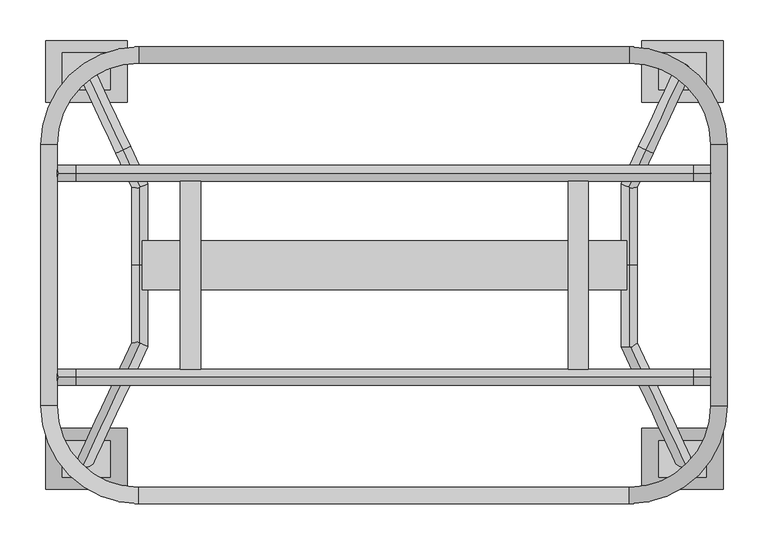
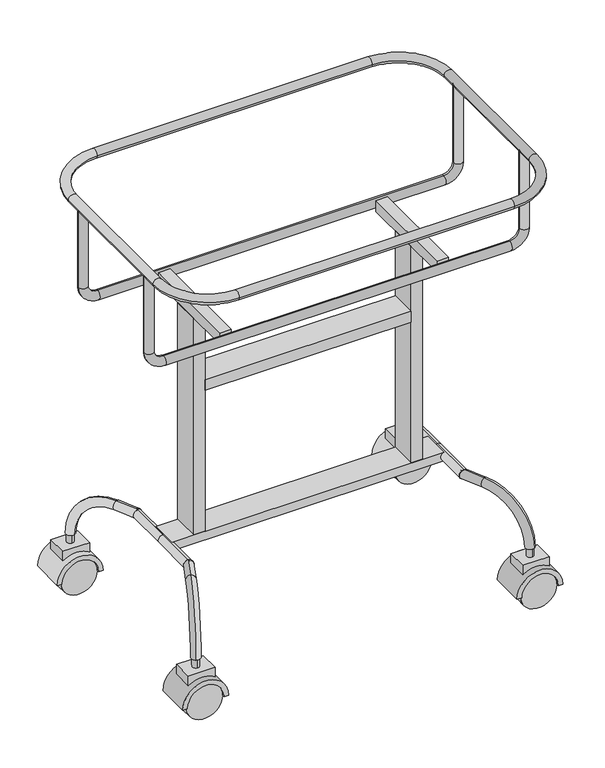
"""IFC4 building model written with IfcOpenShell, lengths in millimetres: furniture geometry, BIMHealth-Cot-LOD2A-v1 : BIMHealth-Cot-LOD2A-v1."""

from ifc_helpers import new_model, si_unit, point, frame, frame_2d, origin, place, context, project, spatial, polyline, circle_curve, ellipse_curve, trimmed, segment, composite_curve, outline, extrude, source, transform, mapped, element, save
from ifc_brep_helpers import plane_surface, cylinder_surface, revolved_surface, advanced_brep


def furniture_f9a86dfd(model_context):
    return source(origin(), model_context, "Body", "SolidModel", [
        extrude(outline(composite_curve([segment(trimmed(circle_curve(frame_2d((-365.3255131, -237.5343393)), 7.5), [point((-365.3255131, -245.0343393))], [point((-365.3255131, -230.0343393))], False, "CARTESIAN"), True, "CONTINUOUS"), segment(trimmed(circle_curve(frame_2d((-365.3255131, -237.5343393)), 7.5), [point((-365.3255131, -230.0343393))], [point((-365.3255131, -245.0343393))], False, "CARTESIAN"), True, "CONTINUOUS")], self_intersect=False)), frame((0.0, 0.0, 102.2775188), z_axis=(0.0, 0.0, 1.0), x_axis=(1.0, 0.0, 0.0)), (0.0, 0.0, 1.0), 20.0),
        extrude(outline(composite_curve([segment(polyline([(102.2775188, -336.0691126), (102.2775188, -394.5819136), (80.5470471, -394.5819136)]), True, "CONTINUOUS"), segment(trimmed(circle_curve(frame_2d((40.0, -365.3255131)), 50.0), [point((80.5470471, -394.5819136))], [point((80.5470471, -336.0691126))], True, "CARTESIAN"), True, "CONTINUOUS"), segment(polyline([(80.5470471, -336.0691126), (102.2775188, -336.0691126)]), True, "CONTINUOUS")], self_intersect=False)), frame((0.0, -260.160003, 0.0), z_axis=(0.0, 1.0, 0.0), x_axis=(0.0, 0.0, 1.0)), (0.0, 0.0, 1.0), 45.2513275),
        extrude(outline(composite_curve([segment(polyline([(40.0, -325.3255131), (40.0, -315.3255131)]), True, "CONTINUOUS"), segment(trimmed(circle_curve(frame_2d((40.0, -365.3255131)), 50.0), [point((40.0, -315.3255131))], [point((40.0, -415.3255131))], False, "CARTESIAN"), True, "CONTINUOUS"), segment(polyline([(40.0, -415.3255131), (40.0, -405.3255131)]), True, "CONTINUOUS"), segment(trimmed(circle_curve(frame_2d((40.0, -365.3255131)), 40.0), [point((40.0, -405.3255131))], [point((40.0, -325.3255131))], True, "CARTESIAN"), True, "CONTINUOUS")], self_intersect=False)), frame((0.0, -274.7407009, 0.0), z_axis=(0.0, 1.0, 0.0), x_axis=(0.0, 0.0, 1.0)), (0.0, 0.0, 1.0), 75.0),
        extrude(outline(composite_curve([segment(trimmed(circle_curve(frame_2d((40.0, -365.3255131)), 40.0), [point((40.0, -405.3255131))], [point((40.0, -325.3255131))], False, "CARTESIAN"), True, "CONTINUOUS"), segment(trimmed(circle_curve(frame_2d((40.0, -365.3255131)), 40.0), [point((40.0, -325.3255131))], [point((40.0, -405.3255131))], False, "CARTESIAN"), True, "CONTINUOUS")], self_intersect=False)), frame((0.0, -224.7407009, 0.0), z_axis=(0.0, 1.0, 0.0), x_axis=(0.0, 0.0, 1.0)), (0.0, 0.0, 1.0), 20.0),
        extrude(outline(composite_curve([segment(trimmed(circle_curve(frame_2d((40.0, -365.3255131)), 40.0), [point((40.0, -405.3255131))], [point((40.0, -325.3255131))], False, "CARTESIAN"), True, "CONTINUOUS"), segment(trimmed(circle_curve(frame_2d((40.0, -365.3255131)), 40.0), [point((40.0, -325.3255131))], [point((40.0, -405.3255131))], False, "CARTESIAN"), True, "CONTINUOUS")], self_intersect=False)), frame((0.0, -269.7407009, 0.0), z_axis=(0.0, 1.0, 0.0), x_axis=(0.0, 0.0, 1.0)), (0.0, 0.0, 1.0), 20.0),
        extrude(outline(composite_curve([segment(trimmed(circle_curve(frame_2d((-365.3255131, 237.5343393)), 7.5), [point((-365.3255131, 245.0343393))], [point((-365.3255131, 230.0343393))], False, "CARTESIAN"), True, "CONTINUOUS"), segment(trimmed(circle_curve(frame_2d((-365.3255131, 237.5343393)), 7.5), [point((-365.3255131, 230.0343393))], [point((-365.3255131, 245.0343393))], False, "CARTESIAN"), True, "CONTINUOUS")], self_intersect=False)), frame((0.0, 0.0, 102.2775188), z_axis=(0.0, 0.0, 1.0), x_axis=(1.0, 0.0, 0.0)), (0.0, 0.0, 1.0), 20.0),
        extrude(outline(composite_curve([segment(polyline([(102.2775188, -336.0691126), (102.2775188, -394.5819136), (80.5470471, -394.5819136)]), True, "CONTINUOUS"), segment(trimmed(circle_curve(frame_2d((40.0, -365.3255131)), 50.0), [point((80.5470471, -394.5819136))], [point((80.5470471, -336.0691126))], True, "CARTESIAN"), True, "CONTINUOUS"), segment(polyline([(80.5470471, -336.0691126), (102.2775188, -336.0691126)]), True, "CONTINUOUS")], self_intersect=False)), frame((0.0, 214.9086756, 0.0), z_axis=(0.0, 1.0, 0.0), x_axis=(0.0, 0.0, 1.0)), (0.0, 0.0, 1.0), 45.2513275),
        extrude(outline(composite_curve([segment(polyline([(40.0, -325.3255131), (40.0, -315.3255131)]), True, "CONTINUOUS"), segment(trimmed(circle_curve(frame_2d((40.0, -365.3255131)), 50.0), [point((40.0, -315.3255131))], [point((40.0, -415.3255131))], False, "CARTESIAN"), True, "CONTINUOUS"), segment(polyline([(40.0, -415.3255131), (40.0, -405.3255131)]), True, "CONTINUOUS"), segment(trimmed(circle_curve(frame_2d((40.0, -365.3255131)), 40.0), [point((40.0, -405.3255131))], [point((40.0, -325.3255131))], True, "CARTESIAN"), True, "CONTINUOUS")], self_intersect=False)), frame((0.0, 199.7407009, 0.0), z_axis=(0.0, 1.0, 0.0), x_axis=(0.0, 0.0, 1.0)), (0.0, 0.0, 1.0), 75.0),
        extrude(outline(composite_curve([segment(trimmed(circle_curve(frame_2d((40.0, -365.3255131)), 40.0), [point((40.0, -405.3255131))], [point((40.0, -325.3255131))], False, "CARTESIAN"), True, "CONTINUOUS"), segment(trimmed(circle_curve(frame_2d((40.0, -365.3255131)), 40.0), [point((40.0, -325.3255131))], [point((40.0, -405.3255131))], False, "CARTESIAN"), True, "CONTINUOUS")], self_intersect=False)), frame((0.0, 204.7407009, 0.0), z_axis=(0.0, 1.0, 0.0), x_axis=(0.0, 0.0, 1.0)), (0.0, 0.0, 1.0), 20.0),
        extrude(outline(composite_curve([segment(trimmed(circle_curve(frame_2d((40.0, -365.3255131)), 40.0), [point((40.0, -405.3255131))], [point((40.0, -325.3255131))], False, "CARTESIAN"), True, "CONTINUOUS"), segment(trimmed(circle_curve(frame_2d((40.0, -365.3255131)), 40.0), [point((40.0, -325.3255131))], [point((40.0, -405.3255131))], False, "CARTESIAN"), True, "CONTINUOUS")], self_intersect=False)), frame((0.0, 249.7407009, 0.0), z_axis=(0.0, 1.0, 0.0), x_axis=(0.0, 0.0, 1.0)), (0.0, 0.0, 1.0), 20.0),
        extrude(outline(composite_curve([segment(trimmed(circle_curve(frame_2d((365.3255131, -237.5343393)), 7.5), [point((365.3255131, -245.0343393))], [point((365.3255131, -230.0343393))], False, "CARTESIAN"), True, "CONTINUOUS"), segment(trimmed(circle_curve(frame_2d((365.3255131, -237.5343393)), 7.5), [point((365.3255131, -230.0343393))], [point((365.3255131, -245.0343393))], False, "CARTESIAN"), True, "CONTINUOUS")], self_intersect=False)), frame((0.0, 0.0, 102.2775188), z_axis=(0.0, 0.0, 1.0), x_axis=(1.0, 0.0, 0.0)), (0.0, 0.0, 1.0), 20.0),
        extrude(outline(composite_curve([segment(polyline([(102.2775188, 336.0691126), (80.5470471, 336.0691126)]), True, "CONTINUOUS"), segment(trimmed(circle_curve(frame_2d((40.0, 365.3255131)), 50.0), [point((80.5470471, 336.0691126))], [point((80.5470471, 394.5819136))], True, "CARTESIAN"), True, "CONTINUOUS"), segment(polyline([(80.5470471, 394.5819136), (102.2775188, 394.5819136), (102.2775188, 336.0691126)]), True, "CONTINUOUS")], self_intersect=False)), frame((0.0, -260.160003, 0.0), z_axis=(0.0, 1.0, 0.0), x_axis=(0.0, 0.0, 1.0)), (0.0, 0.0, 1.0), 45.2513275),
        extrude(outline(composite_curve([segment(trimmed(circle_curve(frame_2d((40.0, 365.3255131)), 40.0), [point((40.0, 325.3255131))], [point((40.0, 405.3255131))], True, "CARTESIAN"), True, "CONTINUOUS"), segment(polyline([(40.0, 405.3255131), (40.0, 415.3255131)]), True, "CONTINUOUS"), segment(trimmed(circle_curve(frame_2d((40.0, 365.3255131)), 50.0), [point((40.0, 415.3255131))], [point((40.0, 315.3255131))], False, "CARTESIAN"), True, "CONTINUOUS"), segment(polyline([(40.0, 315.3255131), (40.0, 325.3255131)]), True, "CONTINUOUS")], self_intersect=False)), frame((0.0, -274.7407009, 0.0), z_axis=(0.0, 1.0, 0.0), x_axis=(0.0, 0.0, 1.0)), (0.0, 0.0, 1.0), 75.0),
        extrude(outline(composite_curve([segment(trimmed(circle_curve(frame_2d((40.0, 365.3255131)), 40.0), [point((40.0, 405.3255131))], [point((40.0, 325.3255131))], False, "CARTESIAN"), True, "CONTINUOUS"), segment(trimmed(circle_curve(frame_2d((40.0, 365.3255131)), 40.0), [point((40.0, 325.3255131))], [point((40.0, 405.3255131))], False, "CARTESIAN"), True, "CONTINUOUS")], self_intersect=False)), frame((0.0, -224.7407009, 0.0), z_axis=(0.0, 1.0, 0.0), x_axis=(0.0, 0.0, 1.0)), (0.0, 0.0, 1.0), 20.0),
        extrude(outline(composite_curve([segment(trimmed(circle_curve(frame_2d((40.0, 365.3255131)), 40.0), [point((40.0, 405.3255131))], [point((40.0, 325.3255131))], False, "CARTESIAN"), True, "CONTINUOUS"), segment(trimmed(circle_curve(frame_2d((40.0, 365.3255131)), 40.0), [point((40.0, 325.3255131))], [point((40.0, 405.3255131))], False, "CARTESIAN"), True, "CONTINUOUS")], self_intersect=False)), frame((0.0, -269.7407009, 0.0), z_axis=(0.0, 1.0, 0.0), x_axis=(0.0, 0.0, 1.0)), (0.0, 0.0, 1.0), 20.0),
        extrude(outline(composite_curve([segment(trimmed(circle_curve(frame_2d((365.3255131, 237.5343393)), 7.5), [point((365.3255131, 245.0343393))], [point((365.3255131, 230.0343393))], False, "CARTESIAN"), True, "CONTINUOUS"), segment(trimmed(circle_curve(frame_2d((365.3255131, 237.5343393)), 7.5), [point((365.3255131, 230.0343393))], [point((365.3255131, 245.0343393))], False, "CARTESIAN"), True, "CONTINUOUS")], self_intersect=False)), frame((0.0, 0.0, 102.2775188), z_axis=(0.0, 0.0, 1.0), x_axis=(1.0, 0.0, 0.0)), (0.0, 0.0, 1.0), 20.0),
        extrude(outline(composite_curve([segment(polyline([(102.2775188, 336.0691126), (80.5470471, 336.0691126)]), True, "CONTINUOUS"), segment(trimmed(circle_curve(frame_2d((40.0, 365.3255131)), 50.0), [point((80.5470471, 336.0691126))], [point((80.5470471, 394.5819136))], True, "CARTESIAN"), True, "CONTINUOUS"), segment(polyline([(80.5470471, 394.5819136), (102.2775188, 394.5819136), (102.2775188, 336.0691126)]), True, "CONTINUOUS")], self_intersect=False)), frame((0.0, 214.9086756, 0.0), z_axis=(0.0, 1.0, 0.0), x_axis=(0.0, 0.0, 1.0)), (0.0, 0.0, 1.0), 45.2513275),
        extrude(outline(composite_curve([segment(trimmed(circle_curve(frame_2d((40.0, 365.3255131)), 40.0), [point((40.0, 325.3255131))], [point((40.0, 405.3255131))], True, "CARTESIAN"), True, "CONTINUOUS"), segment(polyline([(40.0, 405.3255131), (40.0, 415.3255131)]), True, "CONTINUOUS"), segment(trimmed(circle_curve(frame_2d((40.0, 365.3255131)), 50.0), [point((40.0, 415.3255131))], [point((40.0, 315.3255131))], False, "CARTESIAN"), True, "CONTINUOUS"), segment(polyline([(40.0, 315.3255131), (40.0, 325.3255131)]), True, "CONTINUOUS")], self_intersect=False)), frame((0.0, 199.7407009, 0.0), z_axis=(0.0, 1.0, 0.0), x_axis=(0.0, 0.0, 1.0)), (0.0, 0.0, 1.0), 75.0),
        extrude(outline(composite_curve([segment(trimmed(circle_curve(frame_2d((40.0, 365.3255131)), 40.0), [point((40.0, 405.3255131))], [point((40.0, 325.3255131))], False, "CARTESIAN"), True, "CONTINUOUS"), segment(trimmed(circle_curve(frame_2d((40.0, 365.3255131)), 40.0), [point((40.0, 325.3255131))], [point((40.0, 405.3255131))], False, "CARTESIAN"), True, "CONTINUOUS")], self_intersect=False)), frame((0.0, 204.7407009, 0.0), z_axis=(0.0, 1.0, 0.0), x_axis=(0.0, 0.0, 1.0)), (0.0, 0.0, 1.0), 20.0),
        extrude(outline(composite_curve([segment(trimmed(circle_curve(frame_2d((40.0, 365.3255131)), 40.0), [point((40.0, 405.3255131))], [point((40.0, 325.3255131))], False, "CARTESIAN"), True, "CONTINUOUS"), segment(trimmed(circle_curve(frame_2d((40.0, 365.3255131)), 40.0), [point((40.0, 325.3255131))], [point((40.0, 405.3255131))], False, "CARTESIAN"), True, "CONTINUOUS")], self_intersect=False)), frame((0.0, 249.7407009, 0.0), z_axis=(0.0, 1.0, 0.0), x_axis=(0.0, 0.0, 1.0)), (0.0, 0.0, 1.0), 20.0),
        advanced_brep(
        [(299.0630779, 95.7738174, 238.3435359), (299.0630779, 95.7738174, 218.3435359), (320.193991, 141.0892067, 238.3435359), (320.193991, 141.0892067, 218.3435359), (369.2456094, 246.2807419, 122.2775188), (360.7932441, 228.1545862, 122.2775188)],
        [
            (0, 1, circle_curve(frame((299.0630779, 95.7738174, 228.3435359), z_axis=(-0.4226182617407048, -0.9063077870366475, 0.0), x_axis=(0.0, 0.0, -1.0)), 10.0)),
            (1, 0, circle_curve(frame((299.0630779, 95.7738174, 228.3435359), z_axis=(-0.4226182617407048, -0.9063077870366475, 0.0), x_axis=(0.0, 0.0, -1.0)), 10.0)),
            (0, 2),
            (2, 3, circle_curve(frame((320.193991, 141.0892067, 228.3435359), z_axis=(-0.4226182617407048, -0.9063077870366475, 0.0), x_axis=(0.0, 0.0, -1.0)), 10.0)),
            (3, 1),
            (3, 2, circle_curve(frame((320.193991, 141.0892067, 228.3435359), z_axis=(-0.4226182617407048, -0.9063077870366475, 0.0), x_axis=(0.0, 0.0, -1.0)), 10.0)),
            (4, 5, circle_curve(frame((365.0194268, 237.217664, 122.2775188), z_axis=(0.0, 0.0, -1.0), x_axis=(-0.4226182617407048, -0.9063077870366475, 0.0)), 10.0)),
            (5, 4, circle_curve(frame((365.0194268, 237.217664, 122.2775188), z_axis=(0.0, 0.0, -1.0), x_axis=(-0.4226182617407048, -0.9063077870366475, 0.0)), 10.0)),
            (5, 3, circle_curve(frame((320.193991, 141.0892067, 122.2775188), z_axis=(0.9063077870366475, -0.4226182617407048, 0.0), x_axis=(0.0, 0.0, 1.0)), 96.0660172)),
            (2, 4, circle_curve(frame((320.193991, 141.0892067, 122.2775188), z_axis=(-0.9063077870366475, 0.4226182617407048, 0.0), x_axis=(0.0, 0.0, 1.0)), 116.0660172)),
        ],
        [
            plane_surface(frame((299.0630779, 95.7738174, 228.3435359), z_axis=(-0.4226182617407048, -0.9063077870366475, 0.0), x_axis=(-0.9063077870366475, 0.4226182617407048, 0.0))),
            cylinder_surface(frame((299.0630779, 95.7738174, 228.3435359), z_axis=(-0.4226182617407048, -0.9063077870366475, 0.0), x_axis=(0.0, 0.0, -1.0)), 10.0),
            plane_surface(frame((365.0194268, 237.217664, 122.2775188), z_axis=(0.0, 0.0, -1.0), x_axis=(-0.9063077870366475, 0.4226182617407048, 0.0))),
            revolved_surface(trimmed(ellipse_curve(frame((320.193991, 141.0892067, 228.3435359), z_axis=(-0.4226182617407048, -0.9063077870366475, 0.0), x_axis=(0.0, 0.0, -1.0)), 10.0, 10.0), [point((320.193991, 141.0892067, 238.3435359))], [point((320.193991, 141.0892067, 218.3435359))], True, "CARTESIAN"), (320.193991, 141.0892067, 122.2775188), (-0.9063077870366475, 0.4226182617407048, 0.0)),
            revolved_surface(trimmed(ellipse_curve(frame((320.193991, 141.0892067, 228.3435359), z_axis=(-0.4226182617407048, -0.9063077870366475, 0.0), x_axis=(0.0, 0.0, -1.0)), 10.0, 10.0), [point((320.193991, 141.0892067, 218.3435359))], [point((320.193991, 141.0892067, 238.3435359))], True, "CARTESIAN"), (320.193991, 141.0892067, 122.2775188), (-0.9063077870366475, 0.4226182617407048, 0.0)),
        ],
        [
            (0, [[1, 2]]),
            (1, [[-1, 3, 4, 5]]),
            (1, [[-2, -5, 6, -3]]),
            (2, [[7, 8]]),
            (3, [[9, -4, 10, -8]]),
            (4, [[-10, -6, -9, -7]]),
        ],
    ),
        advanced_brep(
        [(-299.0630779, 95.7738174, 238.3435359), (-299.0630779, 95.7738174, 218.3435359), (-320.193991, 141.0892067, 218.3435359), (-320.193991, 141.0892067, 238.3435359), (-369.2456094, 246.2807419, 122.2775188), (-360.7932441, 228.1545862, 122.2775188)],
        [
            (0, 1, circle_curve(frame((-299.0630779, 95.7738174, 228.3435359), z_axis=(0.422618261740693, -0.9063077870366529, 0.0), x_axis=(0.0, 0.0, -1.0)), 10.0)),
            (1, 0, circle_curve(frame((-299.0630779, 95.7738174, 228.3435359), z_axis=(0.422618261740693, -0.9063077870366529, 0.0), x_axis=(0.0, 0.0, -1.0)), 10.0)),
            (1, 2),
            (2, 3, circle_curve(frame((-320.193991, 141.0892067, 228.3435359), z_axis=(0.422618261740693, -0.9063077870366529, 0.0), x_axis=(0.0, 0.0, -1.0)), 10.0)),
            (3, 0),
            (3, 2, circle_curve(frame((-320.193991, 141.0892067, 228.3435359), z_axis=(0.422618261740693, -0.9063077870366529, 0.0), x_axis=(0.0, 0.0, -1.0)), 10.0)),
            (4, 5, circle_curve(frame((-365.0194268, 237.217664, 122.2775188), z_axis=(0.0, 0.0, -1.0), x_axis=(0.422618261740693, -0.9063077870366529, 0.0)), 10.0)),
            (5, 4, circle_curve(frame((-365.0194268, 237.217664, 122.2775188), z_axis=(0.0, 0.0, -1.0), x_axis=(0.422618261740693, -0.9063077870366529, 0.0)), 10.0)),
            (4, 3, circle_curve(frame((-320.193991, 141.0892067, 122.2775188), z_axis=(0.9063077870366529, 0.422618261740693, 0.0), x_axis=(0.0, 0.0, 1.0)), 116.0660172)),
            (2, 5, circle_curve(frame((-320.193991, 141.0892067, 122.2775188), z_axis=(-0.9063077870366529, -0.422618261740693, 0.0), x_axis=(0.0, 0.0, 1.0)), 96.0660172)),
        ],
        [
            plane_surface(frame((-299.0630779, 95.7738174, 228.3435359), z_axis=(0.422618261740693, -0.9063077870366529, 0.0), x_axis=(0.9063077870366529, 0.422618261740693, 0.0))),
            cylinder_surface(frame((-299.0630779, 95.7738174, 228.3435359), z_axis=(0.422618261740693, -0.9063077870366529, 0.0), x_axis=(0.0, 0.0, -1.0)), 10.0),
            plane_surface(frame((-365.0194268, 237.217664, 122.2775188), z_axis=(0.0, 0.0, -1.0), x_axis=(0.906307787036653, 0.422618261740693, 0.0))),
            revolved_surface(trimmed(ellipse_curve(frame((-320.193991, 141.0892067, 228.3435359), z_axis=(0.422618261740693, -0.9063077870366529, 0.0), x_axis=(0.0, 0.0, -1.0)), 10.0, 10.0), [point((-320.193991, 141.0892067, 218.3435359))], [point((-320.193991, 141.0892067, 238.3435359))], True, "CARTESIAN"), (-320.193991, 141.0892067, 122.2775188), (-0.9063077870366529, -0.422618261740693, 0.0)),
            revolved_surface(trimmed(ellipse_curve(frame((-320.193991, 141.0892067, 228.3435359), z_axis=(0.422618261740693, -0.9063077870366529, 0.0), x_axis=(0.0, 0.0, -1.0)), 10.0, 10.0), [point((-320.193991, 141.0892067, 238.3435359))], [point((-320.193991, 141.0892067, 218.3435359))], True, "CARTESIAN"), (-320.193991, 141.0892067, 122.2775188), (-0.9063077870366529, -0.422618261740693, 0.0)),
        ],
        [
            (0, [[1, 2]]),
            (1, [[-2, 3, 4, 5]]),
            (1, [[-1, -5, 6, -3]]),
            (2, [[7, 8]]),
            (3, [[9, -4, 10, -7]]),
            (4, [[-10, -6, -9, -8]]),
        ],
    ),
        advanced_brep(
        [(300.0, -100.0, 218.3435359), (300.0, -100.0, 238.3435359), (300.0, 0.0, 238.3435359), (300.0, 0.0, 218.3435359), (300.0, 100.0, 218.3435359), (300.0, 100.0, 238.3435359)],
        [
            (0, 1, circle_curve(frame((300.0, -100.0, 228.3435359), z_axis=(0.0, -1.0, 0.0), x_axis=(0.0, 0.0, 1.0)), 10.0)),
            (1, 0, circle_curve(frame((300.0, -100.0, 228.3435359), z_axis=(0.0, -1.0, 0.0), x_axis=(0.0, 0.0, 1.0)), 10.0)),
            (1, 2),
            (2, 3, circle_curve(frame((300.0, 0.0, 228.3435359), z_axis=(0.0, -1.0, 0.0), x_axis=(0.0, 0.0, 1.0)), 10.0)),
            (3, 0),
            (3, 2, circle_curve(frame((300.0, 0.0, 228.3435359), z_axis=(0.0, -1.0, 0.0), x_axis=(0.0, 0.0, 1.0)), 10.0)),
            (4, 5, circle_curve(frame((300.0, 100.0, 228.3435359), z_axis=(0.0, 1.0, 0.0), x_axis=(0.0, 0.0, 1.0)), 10.0)),
            (5, 4, circle_curve(frame((300.0, 100.0, 228.3435359), z_axis=(0.0, 1.0, 0.0), x_axis=(0.0, 0.0, 1.0)), 10.0)),
            (2, 5),
            (4, 3),
        ],
        [
            plane_surface(frame((300.0, -100.0, 228.3435359), z_axis=(0.0, -1.0, 0.0), x_axis=(-1.0, 0.0, 0.0))),
            cylinder_surface(frame((300.0, -100.0, 228.3435359), z_axis=(0.0, -1.0, 0.0), x_axis=(0.0, 0.0, 1.0)), 10.0),
            plane_surface(frame((300.0, 100.0, 228.3435359), z_axis=(0.0, 1.0, 0.0), x_axis=(-1.0, 0.0, 0.0))),
            cylinder_surface(frame((300.0, 0.0, 228.3435359), z_axis=(0.0, -1.0, 0.0), x_axis=(0.0, 0.0, 1.0)), 10.0),
        ],
        [
            (0, [[1, 2]]),
            (1, [[-2, 3, 4, 5]]),
            (1, [[-1, -5, 6, -3]]),
            (2, [[7, 8]]),
            (3, [[-4, 9, -7, 10]]),
            (3, [[-6, -10, -8, -9]]),
        ],
    ),
        advanced_brep(
        [(299.0630779, -95.7738174, 238.3435359), (299.0630779, -95.7738174, 218.3435359), (320.193991, -141.0892067, 218.3435359), (320.193991, -141.0892067, 238.3435359), (369.2456094, -246.2807419, 122.2775188), (360.7932441, -228.1545862, 122.2775188)],
        [
            (0, 1, circle_curve(frame((299.0630779, -95.7738174, 228.3435359), z_axis=(-0.4226182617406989, 0.9063077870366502, 0.0), x_axis=(0.0, 0.0, -1.0)), 10.0)),
            (1, 0, circle_curve(frame((299.0630779, -95.7738174, 228.3435359), z_axis=(-0.4226182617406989, 0.9063077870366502, 0.0), x_axis=(0.0, 0.0, -1.0)), 10.0)),
            (1, 2),
            (2, 3, circle_curve(frame((320.193991, -141.0892067, 228.3435359), z_axis=(-0.4226182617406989, 0.9063077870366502, 0.0), x_axis=(0.0, 0.0, -1.0)), 10.0)),
            (3, 0),
            (3, 2, circle_curve(frame((320.193991, -141.0892067, 228.3435359), z_axis=(-0.4226182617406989, 0.9063077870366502, 0.0), x_axis=(0.0, 0.0, -1.0)), 10.0)),
            (4, 5, circle_curve(frame((365.0194268, -237.217664, 122.2775188), z_axis=(0.0, 0.0, -1.0), x_axis=(-0.4226182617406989, 0.9063077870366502, 0.0)), 10.0)),
            (5, 4, circle_curve(frame((365.0194268, -237.217664, 122.2775188), z_axis=(0.0, 0.0, -1.0), x_axis=(-0.4226182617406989, 0.9063077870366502, 0.0)), 10.0)),
            (4, 3, circle_curve(frame((320.193991, -141.0892067, 122.2775188), z_axis=(-0.9063077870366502, -0.4226182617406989, 0.0), x_axis=(0.0, 0.0, 1.0)), 116.0660172)),
            (2, 5, circle_curve(frame((320.193991, -141.0892067, 122.2775188), z_axis=(0.9063077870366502, 0.4226182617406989, 0.0), x_axis=(0.0, 0.0, 1.0)), 96.0660172)),
        ],
        [
            plane_surface(frame((299.0630779, -95.7738174, 228.3435359), z_axis=(-0.4226182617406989, 0.9063077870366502, 0.0), x_axis=(-0.9063077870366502, -0.4226182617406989, 0.0))),
            cylinder_surface(frame((299.0630779, -95.7738174, 228.3435359), z_axis=(-0.4226182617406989, 0.9063077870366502, 0.0), x_axis=(0.0, 0.0, -1.0)), 10.0),
            plane_surface(frame((365.0194268, -237.217664, 122.2775188), z_axis=(0.0, 0.0, -1.0), x_axis=(-0.9063077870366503, -0.42261826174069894, 0.0))),
            revolved_surface(trimmed(ellipse_curve(frame((320.193991, -141.0892067, 228.3435359), z_axis=(-0.4226182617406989, 0.9063077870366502, 0.0), x_axis=(0.0, 0.0, -1.0)), 10.0, 10.0), [point((320.193991, -141.0892067, 218.3435359))], [point((320.193991, -141.0892067, 238.3435359))], True, "CARTESIAN"), (320.193991, -141.0892067, 122.2775188), (0.9063077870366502, 0.4226182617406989, 0.0)),
            revolved_surface(trimmed(ellipse_curve(frame((320.193991, -141.0892067, 228.3435359), z_axis=(-0.4226182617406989, 0.9063077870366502, 0.0), x_axis=(0.0, 0.0, -1.0)), 10.0, 10.0), [point((320.193991, -141.0892067, 238.3435359))], [point((320.193991, -141.0892067, 218.3435359))], True, "CARTESIAN"), (320.193991, -141.0892067, 122.2775188), (0.9063077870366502, 0.4226182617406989, 0.0)),
        ],
        [
            (0, [[1, 2]]),
            (1, [[-2, 3, 4, 5]]),
            (1, [[-1, -5, 6, -3]]),
            (2, [[7, 8]]),
            (3, [[9, -4, 10, -7]]),
            (4, [[-10, -6, -9, -8]]),
        ],
    ),
        advanced_brep(
        [(-299.0630779, -95.7738174, 238.3435359), (-299.0630779, -95.7738174, 218.3435359), (-320.193991, -141.0892067, 238.3435359), (-320.193991, -141.0892067, 218.3435359), (-369.2456094, -246.2807419, 122.2775188), (-360.7932441, -228.1545862, 122.2775188)],
        [
            (0, 1, circle_curve(frame((-299.0630779, -95.7738174, 228.3435359), z_axis=(0.4226182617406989, 0.9063077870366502, 0.0), x_axis=(0.0, 0.0, -1.0)), 10.0)),
            (1, 0, circle_curve(frame((-299.0630779, -95.7738174, 228.3435359), z_axis=(0.4226182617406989, 0.9063077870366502, 0.0), x_axis=(0.0, 0.0, -1.0)), 10.0)),
            (0, 2),
            (2, 3, circle_curve(frame((-320.193991, -141.0892067, 228.3435359), z_axis=(0.4226182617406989, 0.9063077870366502, 0.0), x_axis=(0.0, 0.0, -1.0)), 10.0)),
            (3, 1),
            (3, 2, circle_curve(frame((-320.193991, -141.0892067, 228.3435359), z_axis=(0.4226182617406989, 0.9063077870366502, 0.0), x_axis=(0.0, 0.0, -1.0)), 10.0)),
            (4, 5, circle_curve(frame((-365.0194268, -237.217664, 122.2775188), z_axis=(0.0, 0.0, -1.0), x_axis=(0.4226182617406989, 0.9063077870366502, 0.0)), 10.0)),
            (5, 4, circle_curve(frame((-365.0194268, -237.217664, 122.2775188), z_axis=(0.0, 0.0, -1.0), x_axis=(0.4226182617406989, 0.9063077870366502, 0.0)), 10.0)),
            (5, 3, circle_curve(frame((-320.193991, -141.0892067, 122.2775188), z_axis=(-0.9063077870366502, 0.4226182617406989, 0.0), x_axis=(0.0, 0.0, 1.0)), 96.0660172)),
            (2, 4, circle_curve(frame((-320.193991, -141.0892067, 122.2775188), z_axis=(0.9063077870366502, -0.4226182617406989, 0.0), x_axis=(0.0, 0.0, 1.0)), 116.0660172)),
        ],
        [
            plane_surface(frame((-299.0630779, -95.7738174, 228.3435359), z_axis=(0.4226182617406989, 0.9063077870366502, 0.0), x_axis=(0.9063077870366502, -0.4226182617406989, 0.0))),
            cylinder_surface(frame((-299.0630779, -95.7738174, 228.3435359), z_axis=(0.4226182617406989, 0.9063077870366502, 0.0), x_axis=(0.0, 0.0, -1.0)), 10.0),
            plane_surface(frame((-365.0194268, -237.217664, 122.2775188), z_axis=(0.0, 0.0, -1.0), x_axis=(0.9063077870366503, -0.42261826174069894, 0.0))),
            revolved_surface(trimmed(ellipse_curve(frame((-320.193991, -141.0892067, 228.3435359), z_axis=(0.4226182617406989, 0.9063077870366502, 0.0), x_axis=(0.0, 0.0, -1.0)), 10.0, 10.0), [point((-320.193991, -141.0892067, 238.3435359))], [point((-320.193991, -141.0892067, 218.3435359))], True, "CARTESIAN"), (-320.193991, -141.0892067, 122.2775188), (0.9063077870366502, -0.4226182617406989, 0.0)),
            revolved_surface(trimmed(ellipse_curve(frame((-320.193991, -141.0892067, 228.3435359), z_axis=(0.4226182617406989, 0.9063077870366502, 0.0), x_axis=(0.0, 0.0, -1.0)), 10.0, 10.0), [point((-320.193991, -141.0892067, 218.3435359))], [point((-320.193991, -141.0892067, 238.3435359))], True, "CARTESIAN"), (-320.193991, -141.0892067, 122.2775188), (0.9063077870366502, -0.4226182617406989, 0.0)),
        ],
        [
            (0, [[1, 2]]),
            (1, [[-1, 3, 4, 5]]),
            (1, [[-2, -5, 6, -3]]),
            (2, [[7, 8]]),
            (3, [[9, -4, 10, -8]]),
            (4, [[-10, -6, -9, -7]]),
        ],
    ),
        advanced_brep(
        [(-300.0, -100.0, 218.3435359), (-300.0, -100.0, 238.3435359), (-300.0, 0.0, 218.3435359), (-300.0, 0.0, 238.3435359), (-300.0, 100.0, 218.3435359), (-300.0, 100.0, 238.3435359)],
        [
            (0, 1, circle_curve(frame((-300.0, -100.0, 228.3435359), z_axis=(0.0, -1.0, 0.0), x_axis=(0.0, 0.0, 1.0)), 10.0)),
            (1, 0, circle_curve(frame((-300.0, -100.0, 228.3435359), z_axis=(0.0, -1.0, 0.0), x_axis=(0.0, 0.0, 1.0)), 10.0)),
            (0, 2),
            (2, 3, circle_curve(frame((-300.0, 0.0, 228.3435359), z_axis=(0.0, -1.0, 0.0), x_axis=(0.0, 0.0, 1.0)), 10.0)),
            (3, 1),
            (3, 2, circle_curve(frame((-300.0, 0.0, 228.3435359), z_axis=(0.0, -1.0, 0.0), x_axis=(0.0, 0.0, 1.0)), 10.0)),
            (4, 5, circle_curve(frame((-300.0, 100.0, 228.3435359), z_axis=(0.0, 1.0, 0.0), x_axis=(0.0, 0.0, 1.0)), 10.0)),
            (5, 4, circle_curve(frame((-300.0, 100.0, 228.3435359), z_axis=(0.0, 1.0, 0.0), x_axis=(0.0, 0.0, 1.0)), 10.0)),
            (2, 4),
            (5, 3),
        ],
        [
            plane_surface(frame((-300.0, -100.0, 228.3435359), z_axis=(0.0, -1.0, 0.0), x_axis=(1.0, 0.0, 0.0))),
            cylinder_surface(frame((-300.0, -100.0, 228.3435359), z_axis=(0.0, -1.0, 0.0), x_axis=(0.0, 0.0, 1.0)), 10.0),
            plane_surface(frame((-300.0, 100.0, 228.3435359), z_axis=(0.0, 1.0, 0.0), x_axis=(1.0, 0.0, 0.0))),
            cylinder_surface(frame((-300.0, 0.0, 228.3435359), z_axis=(0.0, -1.0, 0.0), x_axis=(0.0, 0.0, 1.0)), 10.0),
        ],
        [
            (0, [[1, 2]]),
            (1, [[-1, 3, 4, 5]]),
            (1, [[-2, -5, 6, -3]]),
            (2, [[7, 8]]),
            (3, [[-4, 9, -8, 10]]),
            (3, [[-6, -10, -7, -9]]),
        ],
    ),
        extrude(outline(polyline([(225.0, 30.0), (225.0, -30.0), (-225.0, -30.0), (-225.0, 30.0), (225.0, 30.0)])), frame((0.0, 0.0, 563.3435359), z_axis=(0.0, 0.0, 1.0), x_axis=(1.0, 0.0, 0.0)), (0.0, 0.0, 1.0), 25.0),
        extrude(outline(polyline([(300.0, -30.0), (-300.0, -30.0), (-300.0, 30.0), (300.0, 30.0), (300.0, -30.0)])), frame((0.0, 0.0, 218.3435359), z_axis=(0.0, 0.0, 1.0), x_axis=(1.0, 0.0, 0.0)), (0.0, 0.0, 1.0), 20.0),
        extrude(outline(polyline([(-225.0, 30.0), (-225.0, -30.0), (-250.0, -30.0), (-250.0, 30.0), (-225.0, 30.0)])), frame((0.0, 0.0, 238.3435359), z_axis=(0.0, 0.0, 1.0), x_axis=(1.0, 0.0, 0.0)), (0.0, 0.0, 1.0), 500.0),
        extrude(outline(polyline([(250.0, 30.0), (250.0, -30.0), (225.0, -30.0), (225.0, 30.0), (250.0, 30.0)])), frame((0.0, 0.0, 238.3435359), z_axis=(0.0, 0.0, 1.0), x_axis=(1.0, 0.0, 0.0)), (0.0, 0.0, 1.0), 500.0),
        extrude(outline(polyline([(225.0, -127.5), (225.0, 102.5), (250.0, 102.5), (250.0, -127.5), (225.0, -127.5)])), frame((0.0, 0.0, 738.3435359), z_axis=(0.0, 0.0, 1.0), x_axis=(1.0, 0.0, 0.0)), (0.0, 0.0, 1.0), 25.0),
        extrude(outline(polyline([(-225.0, 102.5), (-225.0, -127.5), (-250.0, -127.5), (-250.0, 102.5), (-225.0, 102.5)])), frame((0.0, 0.0, 738.3435359), z_axis=(0.0, 0.0, 1.0), x_axis=(1.0, 0.0, 0.0)), (0.0, 0.0, 1.0), 25.0),
        advanced_brep(
        [(-420.0, 112.5, 963.3435359), (-400.0, 112.5, 963.3435359), (-400.0, 112.5, 783.3435359), (-420.0, 112.5, 783.3435359), (-378.1801948, 112.5, 741.5237308), (-378.1801948, 112.5, 761.5237308), (378.1801948, 112.5, 761.5237308), (378.1801948, 112.5, 741.5237308), (420.0, 112.5, 783.3435359), (400.0, 112.5, 783.3435359), (420.0, 112.5, 963.3435359), (400.0, 112.5, 963.3435359)],
        [
            (0, 1, circle_curve(frame((-410.0, 112.5, 963.3435359), z_axis=(0.0, 0.0, 1.0), x_axis=(1.0, 0.0, 0.0)), 10.0)),
            (1, 0, circle_curve(frame((-410.0, 112.5, 963.3435359), z_axis=(0.0, 0.0, 1.0), x_axis=(1.0, 0.0, 0.0)), 10.0)),
            (1, 2),
            (2, 3, circle_curve(frame((-410.0, 112.5, 783.3435359), z_axis=(0.0, 0.0, 1.0), x_axis=(1.0, 0.0, 0.0)), 10.0)),
            (3, 0),
            (3, 2, circle_curve(frame((-410.0, 112.5, 783.3435359), z_axis=(0.0, 0.0, 1.0), x_axis=(1.0, 0.0, 0.0)), 10.0)),
            (4, 3, circle_curve(frame((-378.1801948, 112.5, 783.3435359), z_axis=(0.0, 1.0, 0.0), x_axis=(-1.0, 0.0, 0.0)), 41.8198052)),
            (2, 5, circle_curve(frame((-378.1801948, 112.5, 783.3435359), z_axis=(0.0, -1.0, 0.0), x_axis=(-1.0, 0.0, 0.0)), 21.8198052)),
            (5, 4, circle_curve(frame((-378.1801948, 112.5, 751.5237308), z_axis=(-1.0, 0.0, 0.0), x_axis=(0.0, 0.0, 1.0)), 10.0)),
            (4, 5, circle_curve(frame((-378.1801948, 112.5, 751.5237308), z_axis=(-1.0, 0.0, 0.0), x_axis=(0.0, 0.0, 1.0)), 10.0)),
            (5, 6),
            (6, 7, circle_curve(frame((378.1801948, 112.5, 751.5237308), z_axis=(-1.0, 0.0, 0.0), x_axis=(0.0, 0.0, 1.0)), 10.0)),
            (7, 4),
            (7, 6, circle_curve(frame((378.1801948, 112.5, 751.5237308), z_axis=(-1.0, 0.0, 0.0), x_axis=(0.0, 0.0, 1.0)), 10.0)),
            (8, 7, circle_curve(frame((378.1801948, 112.5, 783.3435359), z_axis=(0.0, 1.0, 0.0), x_axis=(0.0, 0.0, -1.0)), 41.8198052)),
            (6, 9, circle_curve(frame((378.1801948, 112.5, 783.3435359), z_axis=(0.0, -1.0, 0.0), x_axis=(0.0, 0.0, -1.0)), 21.8198052)),
            (9, 8, circle_curve(frame((410.0, 112.5, 783.3435359), z_axis=(0.0, 0.0, -1.0), x_axis=(-1.0, 0.0, 0.0)), 10.0)),
            (8, 9, circle_curve(frame((410.0, 112.5, 783.3435359), z_axis=(0.0, 0.0, -1.0), x_axis=(-1.0, 0.0, 0.0)), 10.0)),
            (10, 11, circle_curve(frame((410.0, 112.5, 963.3435359), z_axis=(0.0, 0.0, 1.0), x_axis=(-1.0, 0.0, 0.0)), 10.0)),
            (11, 10, circle_curve(frame((410.0, 112.5, 963.3435359), z_axis=(0.0, 0.0, 1.0), x_axis=(-1.0, 0.0, 0.0)), 10.0)),
            (9, 11),
            (10, 8),
        ],
        [
            plane_surface(frame((-410.0, 112.5, 963.3435359), z_axis=(0.0, 0.0, 1.0), x_axis=(0.0, 1.0, 0.0))),
            cylinder_surface(frame((-410.0, 112.5, 963.3435359), z_axis=(0.0, 0.0, 1.0), x_axis=(1.0, 0.0, 0.0)), 10.0),
            revolved_surface(trimmed(ellipse_curve(frame((-410.0, 112.5, 783.3435359), z_axis=(0.0, 0.0, 1.0), x_axis=(1.0, 0.0, 0.0)), 10.0, 10.0), [point((-400.0, 112.5, 783.3435359))], [point((-420.0, 112.5, 783.3435359))], True, "CARTESIAN"), (-378.1801948, 112.5, 783.3435359), (0.0, -1.0, 0.0)),
            revolved_surface(trimmed(ellipse_curve(frame((-410.0, 112.5, 783.3435359), z_axis=(0.0, 0.0, 1.0), x_axis=(1.0, 0.0, 0.0)), 10.0, 10.0), [point((-420.0, 112.5, 783.3435359))], [point((-400.0, 112.5, 783.3435359))], True, "CARTESIAN"), (-378.1801948, 112.5, 783.3435359), (0.0, -1.0, 0.0)),
            cylinder_surface(frame((-378.1801948, 112.5, 751.5237308), z_axis=(-1.0, 0.0, 0.0), x_axis=(0.0, 0.0, 1.0)), 10.0),
            revolved_surface(trimmed(ellipse_curve(frame((378.1801948, 112.5, 751.5237308), z_axis=(-1.0, 0.0, 0.0), x_axis=(0.0, 0.0, 1.0)), 10.0, 10.0), [point((378.1801948, 112.5, 761.5237308))], [point((378.1801948, 112.5, 741.5237308))], True, "CARTESIAN"), (378.1801948, 112.5, 783.3435359), (0.0, -1.0, 0.0)),
            revolved_surface(trimmed(ellipse_curve(frame((378.1801948, 112.5, 751.5237308), z_axis=(-1.0, 0.0, 0.0), x_axis=(0.0, 0.0, 1.0)), 10.0, 10.0), [point((378.1801948, 112.5, 741.5237308))], [point((378.1801948, 112.5, 761.5237308))], True, "CARTESIAN"), (378.1801948, 112.5, 783.3435359), (0.0, -1.0, 0.0)),
            plane_surface(frame((410.0, 112.5, 963.3435359), z_axis=(0.0, 0.0, 1.0), x_axis=(0.0, 1.0, 0.0))),
            cylinder_surface(frame((410.0, 112.5, 783.3435359), z_axis=(0.0, 0.0, -1.0), x_axis=(-1.0, 0.0, 0.0)), 10.0),
        ],
        [
            (0, [[1, 2]]),
            (1, [[-2, 3, 4, 5]]),
            (1, [[-1, -5, 6, -3]]),
            (2, [[7, -4, 8, 9]]),
            (3, [[-8, -6, -7, 10]]),
            (4, [[-9, 11, 12, 13]]),
            (4, [[-10, -13, 14, -11]]),
            (5, [[15, -12, 16, 17]]),
            (6, [[-16, -14, -15, 18]]),
            (7, [[19, 20]]),
            (8, [[-17, 21, -19, 22]]),
            (8, [[-18, -22, -20, -21]]),
        ],
    ),
        advanced_brep(
        [(-420.0, -137.5, 963.3435359), (-400.0, -137.5, 963.3435359), (-420.0, -137.5, 783.3435359), (-400.0, -137.5, 783.3435359), (-378.1801948, -137.5, 761.5237308), (-378.1801948, -137.5, 741.5237308), (378.1801948, -137.5, 741.5237308), (378.1801948, -137.5, 761.5237308), (400.0, -137.5, 783.3435359), (420.0, -137.5, 783.3435359), (420.0, -137.5, 963.3435359), (400.0, -137.5, 963.3435359)],
        [
            (0, 1, circle_curve(frame((-410.0, -137.5, 963.3435359), z_axis=(0.0, 0.0, 1.0), x_axis=(1.0, 0.0, 0.0)), 10.0)),
            (1, 0, circle_curve(frame((-410.0, -137.5, 963.3435359), z_axis=(0.0, 0.0, 1.0), x_axis=(1.0, 0.0, 0.0)), 10.0)),
            (0, 2),
            (2, 3, circle_curve(frame((-410.0, -137.5, 783.3435359), z_axis=(0.0, 0.0, 1.0), x_axis=(1.0, 0.0, 0.0)), 10.0)),
            (3, 1),
            (3, 2, circle_curve(frame((-410.0, -137.5, 783.3435359), z_axis=(0.0, 0.0, 1.0), x_axis=(1.0, 0.0, 0.0)), 10.0)),
            (4, 3, circle_curve(frame((-378.1801948, -137.5, 783.3435359), z_axis=(0.0, 1.0, 0.0), x_axis=(-1.0, 0.0, 0.0)), 21.8198052)),
            (2, 5, circle_curve(frame((-378.1801948, -137.5, 783.3435359), z_axis=(0.0, -1.0, 0.0), x_axis=(-1.0, 0.0, 0.0)), 41.8198052)),
            (5, 4, circle_curve(frame((-378.1801948, -137.5, 751.5237308), z_axis=(-1.0, 0.0, 0.0), x_axis=(0.0, 0.0, 1.0)), 10.0)),
            (4, 5, circle_curve(frame((-378.1801948, -137.5, 751.5237308), z_axis=(-1.0, 0.0, 0.0), x_axis=(0.0, 0.0, 1.0)), 10.0)),
            (5, 6),
            (6, 7, circle_curve(frame((378.1801948, -137.5, 751.5237308), z_axis=(-1.0, 0.0, 0.0), x_axis=(0.0, 0.0, 1.0)), 10.0)),
            (7, 4),
            (7, 6, circle_curve(frame((378.1801948, -137.5, 751.5237308), z_axis=(-1.0, 0.0, 0.0), x_axis=(0.0, 0.0, 1.0)), 10.0)),
            (8, 7, circle_curve(frame((378.1801948, -137.5, 783.3435359), z_axis=(0.0, 1.0, 0.0), x_axis=(0.0, 0.0, -1.0)), 21.8198052)),
            (6, 9, circle_curve(frame((378.1801948, -137.5, 783.3435359), z_axis=(0.0, -1.0, 0.0), x_axis=(0.0, 0.0, -1.0)), 41.8198052)),
            (9, 8, circle_curve(frame((410.0, -137.5, 783.3435359), z_axis=(0.0, 0.0, -1.0), x_axis=(-1.0, 0.0, 0.0)), 10.0)),
            (8, 9, circle_curve(frame((410.0, -137.5, 783.3435359), z_axis=(0.0, 0.0, -1.0), x_axis=(-1.0, 0.0, 0.0)), 10.0)),
            (10, 11, circle_curve(frame((410.0, -137.5, 963.3435359), z_axis=(0.0, 0.0, 1.0), x_axis=(-1.0, 0.0, 0.0)), 10.0)),
            (11, 10, circle_curve(frame((410.0, -137.5, 963.3435359), z_axis=(0.0, 0.0, 1.0), x_axis=(-1.0, 0.0, 0.0)), 10.0)),
            (9, 10),
            (11, 8),
        ],
        [
            plane_surface(frame((-410.0, -137.5, 963.3435359), z_axis=(0.0, 0.0, 1.0), x_axis=(0.0, -1.0, 0.0))),
            cylinder_surface(frame((-410.0, -137.5, 963.3435359), z_axis=(0.0, 0.0, 1.0), x_axis=(1.0, 0.0, 0.0)), 10.0),
            revolved_surface(trimmed(ellipse_curve(frame((-410.0, -137.5, 783.3435359), z_axis=(0.0, 0.0, 1.0), x_axis=(1.0, 0.0, 0.0)), 10.0, 10.0), [point((-420.0, -137.5, 783.3435359))], [point((-400.0, -137.5, 783.3435359))], True, "CARTESIAN"), (-378.1801948, -137.5, 783.3435359), (0.0, -1.0, 0.0)),
            revolved_surface(trimmed(ellipse_curve(frame((-410.0, -137.5, 783.3435359), z_axis=(0.0, 0.0, 1.0), x_axis=(1.0, 0.0, 0.0)), 10.0, 10.0), [point((-400.0, -137.5, 783.3435359))], [point((-420.0, -137.5, 783.3435359))], True, "CARTESIAN"), (-378.1801948, -137.5, 783.3435359), (0.0, -1.0, 0.0)),
            cylinder_surface(frame((-378.1801948, -137.5, 751.5237308), z_axis=(-1.0, 0.0, 0.0), x_axis=(0.0, 0.0, 1.0)), 10.0),
            revolved_surface(trimmed(ellipse_curve(frame((378.1801948, -137.5, 751.5237308), z_axis=(-1.0, 0.0, 0.0), x_axis=(0.0, 0.0, 1.0)), 10.0, 10.0), [point((378.1801948, -137.5, 741.5237308))], [point((378.1801948, -137.5, 761.5237308))], True, "CARTESIAN"), (378.1801948, -137.5, 783.3435359), (0.0, -1.0, 0.0)),
            revolved_surface(trimmed(ellipse_curve(frame((378.1801948, -137.5, 751.5237308), z_axis=(-1.0, 0.0, 0.0), x_axis=(0.0, 0.0, 1.0)), 10.0, 10.0), [point((378.1801948, -137.5, 761.5237308))], [point((378.1801948, -137.5, 741.5237308))], True, "CARTESIAN"), (378.1801948, -137.5, 783.3435359), (0.0, -1.0, 0.0)),
            plane_surface(frame((410.0, -137.5, 963.3435359), z_axis=(0.0, 0.0, 1.0), x_axis=(0.0, -1.0, 0.0))),
            cylinder_surface(frame((410.0, -137.5, 783.3435359), z_axis=(0.0, 0.0, -1.0), x_axis=(-1.0, 0.0, 0.0)), 10.0),
        ],
        [
            (0, [[1, 2]]),
            (1, [[-1, 3, 4, 5]]),
            (1, [[-2, -5, 6, -3]]),
            (2, [[7, -4, 8, 9]]),
            (3, [[-8, -6, -7, 10]]),
            (4, [[-9, 11, 12, 13]]),
            (4, [[-10, -13, 14, -11]]),
            (5, [[15, -12, 16, 17]]),
            (6, [[-16, -14, -15, 18]]),
            (7, [[19, 20]]),
            (8, [[-17, 21, -20, 22]]),
            (8, [[-18, -22, -19, -21]]),
        ],
    ),
        advanced_brep(
        [(420.0, 147.5, 963.3435359), (400.0, 147.5, 963.3435359), (400.0, -172.5, 963.3435359), (420.0, -172.5, 963.3435359), (300.0, -292.5, 963.3435359), (300.0, -272.5, 963.3435359), (-301.1191289, -272.5, 963.3435359), (-301.1191289, -292.5, 963.3435359), (-421.1191289, -172.5, 963.3435359), (-401.1191289, -172.5, 963.3435359), (-401.1191289, 147.5, 963.3435359), (-421.1191289, 147.5, 963.3435359), (-301.1191289, 267.5, 963.3435359), (-301.1191289, 247.5, 963.3435359), (300.0, 247.5, 963.3435359), (300.0, 267.5, 963.3435359)],
        [
            (0, 1, circle_curve(frame((410.0, 147.5, 963.3435359), z_axis=(0.0, -1.0, 0.0), x_axis=(1.0, 0.0, 0.0)), 10.0)),
            (1, 2),
            (2, 3, circle_curve(frame((410.0, -172.5, 963.3435359), z_axis=(0.0, 1.0, 0.0), x_axis=(1.0, 0.0, 0.0)), 10.0)),
            (3, 0),
            (1, 0, circle_curve(frame((410.0, 147.5, 963.3435359), z_axis=(0.0, -1.0, 0.0), x_axis=(1.0, 0.0, 0.0)), 10.0)),
            (3, 2, circle_curve(frame((410.0, -172.5, 963.3435359), z_axis=(0.0, 1.0, 0.0), x_axis=(1.0, 0.0, 0.0)), 10.0)),
            (4, 3, circle_curve(frame((300.0, -172.5, 963.3435359), z_axis=(0.0, 0.0, 1.0), x_axis=(1.0, 0.0, 0.0)), 120.0)),
            (2, 5, circle_curve(frame((300.0, -172.5, 963.3435359), z_axis=(0.0, 0.0, -1.0), x_axis=(1.0, 0.0, 0.0)), 100.0)),
            (5, 4, circle_curve(frame((300.0, -282.5, 963.3435359), z_axis=(1.0, 0.0, 0.0), x_axis=(0.0, -1.0, 0.0)), 10.0)),
            (4, 5, circle_curve(frame((300.0, -282.5, 963.3435359), z_axis=(1.0, 0.0, 0.0), x_axis=(0.0, -1.0, 0.0)), 10.0)),
            (5, 6),
            (6, 7, circle_curve(frame((-301.1191289, -282.5, 963.3435359), z_axis=(1.0, 0.0, 0.0), x_axis=(0.0, -1.0, 0.0)), 10.0)),
            (7, 4),
            (7, 6, circle_curve(frame((-301.1191289, -282.5, 963.3435359), z_axis=(1.0, 0.0, 0.0), x_axis=(0.0, -1.0, 0.0)), 10.0)),
            (8, 7, circle_curve(frame((-301.1191289, -172.5, 963.3435359), z_axis=(0.0, 0.0, 1.0), x_axis=(0.0, -1.0, 0.0)), 120.0)),
            (6, 9, circle_curve(frame((-301.1191289, -172.5, 963.3435359), z_axis=(0.0, 0.0, -1.0), x_axis=(0.0, -1.0, 0.0)), 100.0)),
            (9, 8, circle_curve(frame((-411.1191289, -172.5, 963.3435359), z_axis=(0.0, -1.0, 0.0), x_axis=(-1.0, 0.0, 0.0)), 10.0)),
            (8, 9, circle_curve(frame((-411.1191289, -172.5, 963.3435359), z_axis=(0.0, -1.0, 0.0), x_axis=(-1.0, 0.0, 0.0)), 10.0)),
            (9, 10),
            (10, 11, circle_curve(frame((-411.1191289, 147.5, 963.3435359), z_axis=(0.0, -1.0, 0.0), x_axis=(-1.0, 0.0, 0.0)), 10.0)),
            (11, 8),
            (11, 10, circle_curve(frame((-411.1191289, 147.5, 963.3435359), z_axis=(0.0, -1.0, 0.0), x_axis=(-1.0, 0.0, 0.0)), 10.0)),
            (12, 11, circle_curve(frame((-301.1191289, 147.5, 963.3435359), z_axis=(0.0, 0.0, 1.0), x_axis=(-1.0, 0.0, 0.0)), 120.0)),
            (10, 13, circle_curve(frame((-301.1191289, 147.5, 963.3435359), z_axis=(0.0, 0.0, -1.0), x_axis=(-1.0, 0.0, 0.0)), 100.0)),
            (13, 12, circle_curve(frame((-301.1191289, 257.5, 963.3435359), z_axis=(-1.0, 0.0, 0.0), x_axis=(0.0, 1.0, 0.0)), 10.0)),
            (12, 13, circle_curve(frame((-301.1191289, 257.5, 963.3435359), z_axis=(-1.0, 0.0, 0.0), x_axis=(0.0, 1.0, 0.0)), 10.0)),
            (13, 14),
            (14, 15, circle_curve(frame((300.0, 257.5, 963.3435359), z_axis=(-1.0, 0.0, 0.0), x_axis=(0.0, 1.0, 0.0)), 10.0)),
            (15, 12),
            (15, 14, circle_curve(frame((300.0, 257.5, 963.3435359), z_axis=(-1.0, 0.0, 0.0), x_axis=(0.0, 1.0, 0.0)), 10.0)),
            (0, 15, circle_curve(frame((300.0, 147.5, 963.3435359), z_axis=(0.0, 0.0, 1.0), x_axis=(0.0, 1.0, 0.0)), 120.0)),
            (14, 1, circle_curve(frame((300.0, 147.5, 963.3435359), z_axis=(0.0, 0.0, -1.0), x_axis=(0.0, 1.0, 0.0)), 100.0)),
        ],
        [
            cylinder_surface(frame((410.0, 147.5, 963.3435359), z_axis=(0.0, 1.0, 0.0), x_axis=(1.0, 0.0, 0.0)), 10.0),
            revolved_surface(trimmed(ellipse_curve(frame((410.0, -172.5, 963.3435359), z_axis=(0.0, 1.0, 0.0), x_axis=(1.0, 0.0, 0.0)), 10.0, 10.0), [point((400.0, -172.5, 963.3435359))], [point((420.0, -172.5, 963.3435359))], True, "CARTESIAN"), (300.0, -172.5, 963.3435359), (0.0, 0.0, -1.0)),
            revolved_surface(trimmed(ellipse_curve(frame((410.0, -172.5, 963.3435359), z_axis=(0.0, 1.0, 0.0), x_axis=(1.0, 0.0, 0.0)), 10.0, 10.0), [point((420.0, -172.5, 963.3435359))], [point((400.0, -172.5, 963.3435359))], True, "CARTESIAN"), (300.0, -172.5, 963.3435359), (0.0, 0.0, -1.0)),
            cylinder_surface(frame((300.0, -282.5, 963.3435359), z_axis=(1.0, 0.0, 0.0), x_axis=(0.0, -1.0, 0.0)), 10.0),
            revolved_surface(trimmed(ellipse_curve(frame((-301.1191289, -282.5, 963.3435359), z_axis=(1.0, 0.0, 0.0), x_axis=(0.0, -1.0, 0.0)), 10.0, 10.0), [point((-301.1191289, -272.5, 963.3435359))], [point((-301.1191289, -292.5, 963.3435359))], True, "CARTESIAN"), (-301.1191289, -172.5, 963.3435359), (0.0, 0.0, -1.0)),
            revolved_surface(trimmed(ellipse_curve(frame((-301.1191289, -282.5, 963.3435359), z_axis=(1.0, 0.0, 0.0), x_axis=(0.0, -1.0, 0.0)), 10.0, 10.0), [point((-301.1191289, -292.5, 963.3435359))], [point((-301.1191289, -272.5, 963.3435359))], True, "CARTESIAN"), (-301.1191289, -172.5, 963.3435359), (0.0, 0.0, -1.0)),
            cylinder_surface(frame((-411.1191289, -172.5, 963.3435359), z_axis=(0.0, -1.0, 0.0), x_axis=(-1.0, 0.0, 0.0)), 10.0),
            revolved_surface(trimmed(ellipse_curve(frame((-411.1191289, 147.5, 963.3435359), z_axis=(0.0, -1.0, 0.0), x_axis=(-1.0, 0.0, 0.0)), 10.0, 10.0), [point((-401.1191289, 147.5, 963.3435359))], [point((-421.1191289, 147.5, 963.3435359))], True, "CARTESIAN"), (-301.1191289, 147.5, 963.3435359), (0.0, 0.0, -1.0)),
            revolved_surface(trimmed(ellipse_curve(frame((-411.1191289, 147.5, 963.3435359), z_axis=(0.0, -1.0, 0.0), x_axis=(-1.0, 0.0, 0.0)), 10.0, 10.0), [point((-421.1191289, 147.5, 963.3435359))], [point((-401.1191289, 147.5, 963.3435359))], True, "CARTESIAN"), (-301.1191289, 147.5, 963.3435359), (0.0, 0.0, -1.0)),
            cylinder_surface(frame((-301.1191289, 257.5, 963.3435359), z_axis=(-1.0, 0.0, 0.0), x_axis=(0.0, 1.0, 0.0)), 10.0),
            revolved_surface(trimmed(ellipse_curve(frame((300.0, 257.5, 963.3435359), z_axis=(-1.0, 0.0, 0.0), x_axis=(0.0, 1.0, 0.0)), 10.0, 10.0), [point((300.0, 247.5, 963.3435359))], [point((300.0, 267.5, 963.3435359))], True, "CARTESIAN"), (300.0, 147.5, 963.3435359), (0.0, 0.0, -1.0)),
            revolved_surface(trimmed(ellipse_curve(frame((300.0, 257.5, 963.3435359), z_axis=(-1.0, 0.0, 0.0), x_axis=(0.0, 1.0, 0.0)), 10.0, 10.0), [point((300.0, 267.5, 963.3435359))], [point((300.0, 247.5, 963.3435359))], True, "CARTESIAN"), (300.0, 147.5, 963.3435359), (0.0, 0.0, -1.0)),
        ],
        [
            (0, [[1, 2, 3, 4]]),
            (0, [[5, -4, 6, -2]]),
            (1, [[7, -3, 8, 9]]),
            (2, [[-8, -6, -7, 10]]),
            (3, [[-9, 11, 12, 13]]),
            (3, [[-10, -13, 14, -11]]),
            (4, [[15, -12, 16, 17]]),
            (5, [[-16, -14, -15, 18]]),
            (6, [[-17, 19, 20, 21]]),
            (6, [[-18, -21, 22, -19]]),
            (7, [[23, -20, 24, 25]]),
            (8, [[-24, -22, -23, 26]]),
            (9, [[-25, 27, 28, 29]]),
            (9, [[-26, -29, 30, -27]]),
            (10, [[31, -28, 32, -1]]),
            (11, [[-32, -30, -31, -5]]),
        ],
    ),
    ])


if __name__ == "__main__":
    model = new_model("IFC4")
    model_context = context("Model", 3, world=origin())
    ifc_project = project(units=[si_unit("LENGTHUNIT", "METRE", prefix="MILLI")], contexts=[model_context])
    site = spatial("IfcSite", under=ifc_project)
    building = spatial("IfcBuilding", under=site)
    placement = place(None, origin())
    furniture_shape = furniture_f9a86dfd(model_context)
    element("IfcFurniture", 1, ObjectType="BIMHealth-Cot-LOD2A-v1 : BIMHealth-Cot-LOD2A-v1", at=placement, inside=building, context=model_context, shape_type="MappedRepresentation", body=[
        mapped(furniture_shape, transform((0.0, 0.0, 0.0), x_axis=(1.0, 0.0, 0.0), y_axis=(0.0, 1.0, 0.0), z_axis=(0.0, 0.0, 1.0))),
    ])
    save(model, "model.ifc")
